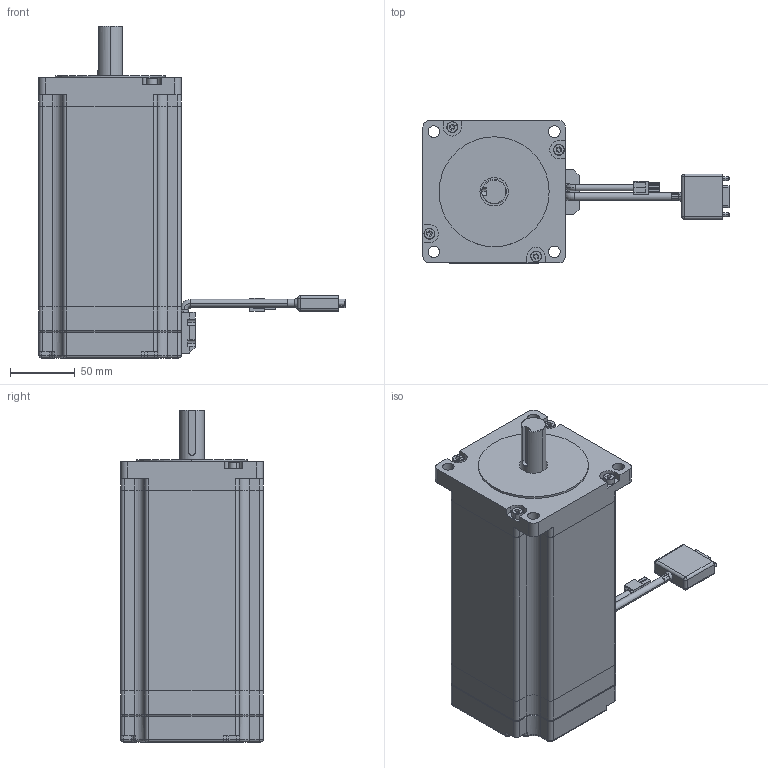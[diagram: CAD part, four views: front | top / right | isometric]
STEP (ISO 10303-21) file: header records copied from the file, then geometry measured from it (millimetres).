
FILE_DESCRIPTION (( 'STEP AP203' ), '1' );
FILE_NAME ('110HS3230-06.STEP', '2020-09-10T06:35:18', ( 'Windows' ), ( 'Microsoft' ), 'SwSTEP 2.0', 'SolidWorks 2015', '' );
FILE_SCHEMA (( 'CONFIG_CONTROL_DESIGN' ));
Length unit declared in the file: millimetre
Products named in the file (10): 110綴傷裔; 110粣粣噤19瑩羞; M5X90囀鞠褒埴翐芛; 25.6x16邧揤盄裔; DBͷ; HX42000-4R; 晤鎢ん綴欶; 110隅赽155; 110HS3230-06; 110ヶ傷裔湮楊擘
Assembly tree (12 placements, depth 2):
  110HS3230-06
    110隅赽155
    110ヶ傷裔湮楊擘
    110綴傷裔
    110粣粣噤19瑩羞
    M5X90囀鞠褒埴翐芛  x4
    25.6x16邧揤盄裔
    DBͷ
    HX42000-4R
    晤鎢ん綴欶
Bounding box: 236.5 x 110 x 256.5 mm (x, y, z)
Volume: 2264245.4 mm3; surface area: 218119.4 mm2
Topology: 16 solids, 16 shells, 652 faces, 1584 edges, 1000 vertices
Faces by surface type: plane 328, cylinder 262, torus 37, cone 13, sphere 12
Entity records: 18553 total; most frequent: DIRECTION 3133, CARTESIAN_POINT 3087, ORIENTED_EDGE 2872, EDGE_CURVE 1436, AXIS2_PLACEMENT_3D 1110, VERTEX_POINT 916, VECTOR 913, LINE 913
